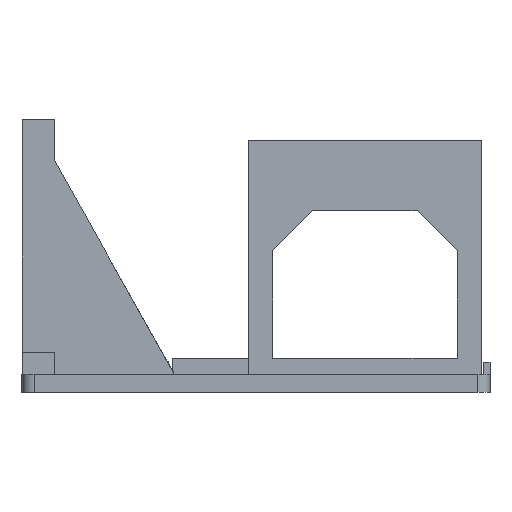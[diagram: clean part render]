
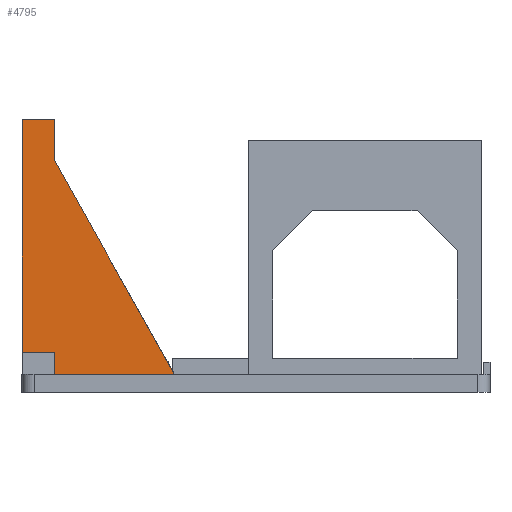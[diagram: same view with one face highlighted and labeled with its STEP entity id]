
A CAD part, left-side view. The second image highlights one B-rep face of the part: STEP entity #4795.
In plain terms, the highlighted planar face has unit normal (-1, 0, 0).
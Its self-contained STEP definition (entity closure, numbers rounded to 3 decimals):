
#44 = PLANE('',#45);
#45 = AXIS2_PLACEMENT_3D('',#46,#47,#48);
#46 = CARTESIAN_POINT('',(-46.,-4.2,-3.5));
#47 = DIRECTION('',(0.,0.,1.));
#48 = DIRECTION('',(1.,0.,0.));
#271 = PLANE('',#272);
#272 = AXIS2_PLACEMENT_3D('',#273,#274,#275);
#273 = CARTESIAN_POINT('',(-46.,112.5,-8.));
#274 = DIRECTION('',(0.,1.,0.));
#275 = DIRECTION('',(0.,0.,1.));
#3263 = VERTEX_POINT('',#3264);
#3264 = CARTESIAN_POINT('',(-10.2,112.5,2.));
#3278 = PLANE('',#3279);
#3279 = AXIS2_PLACEMENT_3D('',#3280,#3281,#3282);
#3280 = CARTESIAN_POINT('',(-16.,104.5,2.));
#3281 = DIRECTION('',(0.,0.,1.));
#3282 = DIRECTION('',(1.,0.,0.));
#3290 = EDGE_CURVE('',#3263,#3291,#3293,.T.);
#3291 = VERTEX_POINT('',#3292);
#3292 = CARTESIAN_POINT('',(-10.2,112.5,60.));
#3293 = SURFACE_CURVE('',#3294,(#3298,#3305),.PCURVE_S1.);
#3294 = LINE('',#3295,#3296);
#3295 = CARTESIAN_POINT('',(-10.2,112.5,-8.));
#3296 = VECTOR('',#3297,1.);
#3297 = DIRECTION('',(0.,0.,1.));
#3298 = PCURVE('',#271,#3299);
#3299 = DEFINITIONAL_REPRESENTATION('',(#3300),#3304);
#3300 = LINE('',#3301,#3302);
#3301 = CARTESIAN_POINT('',(0.,35.8));
#3302 = VECTOR('',#3303,1.);
#3303 = DIRECTION('',(1.,0.));
#3304 = ( GEOMETRIC_REPRESENTATION_CONTEXT(2) 
PARAMETRIC_REPRESENTATION_CONTEXT() REPRESENTATION_CONTEXT('2D SPACE',''
  ) );
#3305 = PCURVE('',#3306,#3311);
#3306 = PLANE('',#3307);
#3307 = AXIS2_PLACEMENT_3D('',#3308,#3309,#3310);
#3308 = CARTESIAN_POINT('',(-10.2,95.041,17.709));
#3309 = DIRECTION('',(-1.,-0.,-0.));
#3310 = DIRECTION('',(0.,0.,-1.));
#3311 = DEFINITIONAL_REPRESENTATION('',(#3312),#3316);
#3312 = LINE('',#3313,#3314);
#3313 = CARTESIAN_POINT('',(25.709,-17.459));
#3314 = VECTOR('',#3315,1.);
#3315 = DIRECTION('',(-1.,0.));
#3316 = ( GEOMETRIC_REPRESENTATION_CONTEXT(2) 
PARAMETRIC_REPRESENTATION_CONTEXT() REPRESENTATION_CONTEXT('2D SPACE',''
  ) );
#3334 = PLANE('',#3335);
#3335 = AXIS2_PLACEMENT_3D('',#3336,#3337,#3338);
#3336 = CARTESIAN_POINT('',(-10.2,104.5,60.));
#3337 = DIRECTION('',(0.,0.,1.));
#3338 = DIRECTION('',(1.,0.,0.));
#4046 = EDGE_CURVE('',#4047,#3291,#4049,.T.);
#4047 = VERTEX_POINT('',#4048);
#4048 = CARTESIAN_POINT('',(-10.2,104.5,60.));
#4049 = SURFACE_CURVE('',#4050,(#4054,#4061),.PCURVE_S1.);
#4050 = LINE('',#4051,#4052);
#4051 = CARTESIAN_POINT('',(-10.2,104.5,60.));
#4052 = VECTOR('',#4053,1.);
#4053 = DIRECTION('',(0.,1.,0.));
#4054 = PCURVE('',#3334,#4055);
#4055 = DEFINITIONAL_REPRESENTATION('',(#4056),#4060);
#4056 = LINE('',#4057,#4058);
#4057 = CARTESIAN_POINT('',(0.,0.));
#4058 = VECTOR('',#4059,1.);
#4059 = DIRECTION('',(0.,1.));
#4060 = ( GEOMETRIC_REPRESENTATION_CONTEXT(2) 
PARAMETRIC_REPRESENTATION_CONTEXT() REPRESENTATION_CONTEXT('2D SPACE',''
  ) );
#4061 = PCURVE('',#3306,#4062);
#4062 = DEFINITIONAL_REPRESENTATION('',(#4063),#4067);
#4063 = LINE('',#4064,#4065);
#4064 = CARTESIAN_POINT('',(-42.291,-9.459));
#4065 = VECTOR('',#4066,1.);
#4066 = DIRECTION('',(0.,-1.));
#4067 = ( GEOMETRIC_REPRESENTATION_CONTEXT(2) 
PARAMETRIC_REPRESENTATION_CONTEXT() REPRESENTATION_CONTEXT('2D SPACE',''
  ) );
#4085 = PLANE('',#4086);
#4086 = AXIS2_PLACEMENT_3D('',#4087,#4088,#4089);
#4087 = CARTESIAN_POINT('',(-16.,104.5,-8.));
#4088 = DIRECTION('',(0.,1.,0.));
#4089 = DIRECTION('',(0.,0.,1.));
#4146 = VERTEX_POINT('',#4147);
#4147 = CARTESIAN_POINT('',(-10.2,104.5,50.));
#4161 = PLANE('',#4162);
#4162 = AXIS2_PLACEMENT_3D('',#4163,#4164,#4165);
#4163 = CARTESIAN_POINT('',(-10.2,74.5,-3.5));
#4164 = DIRECTION('',(0.,-0.872,0.489));
#4165 = DIRECTION('',(0.,0.489,0.872));
#4173 = EDGE_CURVE('',#4146,#4047,#4174,.T.);
#4174 = SURFACE_CURVE('',#4175,(#4179,#4186),.PCURVE_S1.);
#4175 = LINE('',#4176,#4177);
#4176 = CARTESIAN_POINT('',(-10.2,104.5,-8.));
#4177 = VECTOR('',#4178,1.);
#4178 = DIRECTION('',(0.,0.,1.));
#4179 = PCURVE('',#4085,#4180);
#4180 = DEFINITIONAL_REPRESENTATION('',(#4181),#4185);
#4181 = LINE('',#4182,#4183);
#4182 = CARTESIAN_POINT('',(0.,5.8));
#4183 = VECTOR('',#4184,1.);
#4184 = DIRECTION('',(1.,0.));
#4185 = ( GEOMETRIC_REPRESENTATION_CONTEXT(2) 
PARAMETRIC_REPRESENTATION_CONTEXT() REPRESENTATION_CONTEXT('2D SPACE',''
  ) );
#4186 = PCURVE('',#3306,#4187);
#4187 = DEFINITIONAL_REPRESENTATION('',(#4188),#4192);
#4188 = LINE('',#4189,#4190);
#4189 = CARTESIAN_POINT('',(25.709,-9.459));
#4190 = VECTOR('',#4191,1.);
#4191 = DIRECTION('',(-1.,0.));
#4192 = ( GEOMETRIC_REPRESENTATION_CONTEXT(2) 
PARAMETRIC_REPRESENTATION_CONTEXT() REPRESENTATION_CONTEXT('2D SPACE',''
  ) );
#4198 = EDGE_CURVE('',#4199,#4146,#4201,.T.);
#4199 = VERTEX_POINT('',#4200);
#4200 = CARTESIAN_POINT('',(-10.2,74.5,-3.5));
#4201 = SURFACE_CURVE('',#4202,(#4206,#4213),.PCURVE_S1.);
#4202 = LINE('',#4203,#4204);
#4203 = CARTESIAN_POINT('',(-10.2,74.5,-3.5));
#4204 = VECTOR('',#4205,1.);
#4205 = DIRECTION('',(0.,0.489,0.872));
#4206 = PCURVE('',#4161,#4207);
#4207 = DEFINITIONAL_REPRESENTATION('',(#4208),#4212);
#4208 = LINE('',#4209,#4210);
#4209 = CARTESIAN_POINT('',(0.,0.));
#4210 = VECTOR('',#4211,1.);
#4211 = DIRECTION('',(1.,0.));
#4212 = ( GEOMETRIC_REPRESENTATION_CONTEXT(2) 
PARAMETRIC_REPRESENTATION_CONTEXT() REPRESENTATION_CONTEXT('2D SPACE',''
  ) );
#4213 = PCURVE('',#3306,#4214);
#4214 = DEFINITIONAL_REPRESENTATION('',(#4215),#4219);
#4215 = LINE('',#4216,#4217);
#4216 = CARTESIAN_POINT('',(21.209,20.541));
#4217 = VECTOR('',#4218,1.);
#4218 = DIRECTION('',(-0.872,-0.489));
#4219 = ( GEOMETRIC_REPRESENTATION_CONTEXT(2) 
PARAMETRIC_REPRESENTATION_CONTEXT() REPRESENTATION_CONTEXT('2D SPACE',''
  ) );
#4795 = ADVANCED_FACE('',(#4796),#3306,.T.);
#4796 = FACE_BOUND('',#4797,.T.);
#4797 = EDGE_LOOP('',(#4798,#4821,#4822,#4823,#4824,#4825,#4847));
#4798 = ORIENTED_EDGE('',*,*,#4799,.T.);
#4799 = EDGE_CURVE('',#4800,#4199,#4802,.T.);
#4800 = VERTEX_POINT('',#4801);
#4801 = CARTESIAN_POINT('',(-10.2,104.5,-3.5));
#4802 = SURFACE_CURVE('',#4803,(#4807,#4814),.PCURVE_S1.);
#4803 = LINE('',#4804,#4805);
#4804 = CARTESIAN_POINT('',(-10.2,104.5,-3.5));
#4805 = VECTOR('',#4806,1.);
#4806 = DIRECTION('',(0.,-1.,0.));
#4807 = PCURVE('',#3306,#4808);
#4808 = DEFINITIONAL_REPRESENTATION('',(#4809),#4813);
#4809 = LINE('',#4810,#4811);
#4810 = CARTESIAN_POINT('',(21.209,-9.459));
#4811 = VECTOR('',#4812,1.);
#4812 = DIRECTION('',(0.,1.));
#4813 = ( GEOMETRIC_REPRESENTATION_CONTEXT(2) 
PARAMETRIC_REPRESENTATION_CONTEXT() REPRESENTATION_CONTEXT('2D SPACE',''
  ) );
#4814 = PCURVE('',#44,#4815);
#4815 = DEFINITIONAL_REPRESENTATION('',(#4816),#4820);
#4816 = LINE('',#4817,#4818);
#4817 = CARTESIAN_POINT('',(35.8,108.7));
#4818 = VECTOR('',#4819,1.);
#4819 = DIRECTION('',(0.,-1.));
#4820 = ( GEOMETRIC_REPRESENTATION_CONTEXT(2) 
PARAMETRIC_REPRESENTATION_CONTEXT() REPRESENTATION_CONTEXT('2D SPACE',''
  ) );
#4821 = ORIENTED_EDGE('',*,*,#4198,.T.);
#4822 = ORIENTED_EDGE('',*,*,#4173,.T.);
#4823 = ORIENTED_EDGE('',*,*,#4046,.T.);
#4824 = ORIENTED_EDGE('',*,*,#3290,.F.);
#4825 = ORIENTED_EDGE('',*,*,#4826,.F.);
#4826 = EDGE_CURVE('',#4827,#3263,#4829,.T.);
#4827 = VERTEX_POINT('',#4828);
#4828 = CARTESIAN_POINT('',(-10.2,104.5,2.));
#4829 = SURFACE_CURVE('',#4830,(#4834,#4841),.PCURVE_S1.);
#4830 = LINE('',#4831,#4832);
#4831 = CARTESIAN_POINT('',(-10.2,104.5,2.));
#4832 = VECTOR('',#4833,1.);
#4833 = DIRECTION('',(0.,1.,0.));
#4834 = PCURVE('',#3306,#4835);
#4835 = DEFINITIONAL_REPRESENTATION('',(#4836),#4840);
#4836 = LINE('',#4837,#4838);
#4837 = CARTESIAN_POINT('',(15.709,-9.459));
#4838 = VECTOR('',#4839,1.);
#4839 = DIRECTION('',(0.,-1.));
#4840 = ( GEOMETRIC_REPRESENTATION_CONTEXT(2) 
PARAMETRIC_REPRESENTATION_CONTEXT() REPRESENTATION_CONTEXT('2D SPACE',''
  ) );
#4841 = PCURVE('',#3278,#4842);
#4842 = DEFINITIONAL_REPRESENTATION('',(#4843),#4846);
#4843 = B_SPLINE_CURVE_WITH_KNOTS('',1,(#4844,#4845),.UNSPECIFIED.,.F.,
  .F.,(2,2),(0.,8.),.PIECEWISE_BEZIER_KNOTS.);
#4844 = CARTESIAN_POINT('',(5.8,0.));
#4845 = CARTESIAN_POINT('',(5.8,8.));
#4846 = ( GEOMETRIC_REPRESENTATION_CONTEXT(2) 
PARAMETRIC_REPRESENTATION_CONTEXT() REPRESENTATION_CONTEXT('2D SPACE',''
  ) );
#4847 = ORIENTED_EDGE('',*,*,#4848,.T.);
#4848 = EDGE_CURVE('',#4827,#4800,#4849,.T.);
#4849 = SURFACE_CURVE('',#4850,(#4854,#4861),.PCURVE_S1.);
#4850 = LINE('',#4851,#4852);
#4851 = CARTESIAN_POINT('',(-10.2,104.5,50.));
#4852 = VECTOR('',#4853,1.);
#4853 = DIRECTION('',(0.,0.,-1.));
#4854 = PCURVE('',#3306,#4855);
#4855 = DEFINITIONAL_REPRESENTATION('',(#4856),#4860);
#4856 = LINE('',#4857,#4858);
#4857 = CARTESIAN_POINT('',(-32.291,-9.459));
#4858 = VECTOR('',#4859,1.);
#4859 = DIRECTION('',(1.,0.));
#4860 = ( GEOMETRIC_REPRESENTATION_CONTEXT(2) 
PARAMETRIC_REPRESENTATION_CONTEXT() REPRESENTATION_CONTEXT('2D SPACE',''
  ) );
#4861 = PCURVE('',#4862,#4867);
#4862 = PLANE('',#4863);
#4863 = AXIS2_PLACEMENT_3D('',#4864,#4865,#4866);
#4864 = CARTESIAN_POINT('',(-16.,104.5,-8.));
#4865 = DIRECTION('',(0.,1.,0.));
#4866 = DIRECTION('',(0.,0.,1.));
#4867 = DEFINITIONAL_REPRESENTATION('',(#4868),#4872);
#4868 = LINE('',#4869,#4870);
#4869 = CARTESIAN_POINT('',(58.,5.8));
#4870 = VECTOR('',#4871,1.);
#4871 = DIRECTION('',(-1.,0.));
#4872 = ( GEOMETRIC_REPRESENTATION_CONTEXT(2) 
PARAMETRIC_REPRESENTATION_CONTEXT() REPRESENTATION_CONTEXT('2D SPACE',''
  ) );
